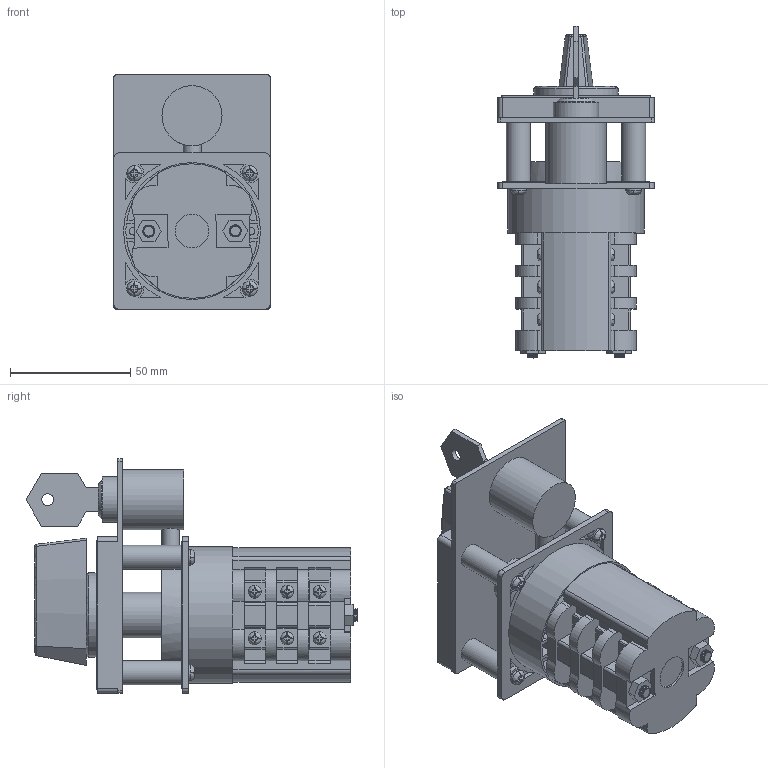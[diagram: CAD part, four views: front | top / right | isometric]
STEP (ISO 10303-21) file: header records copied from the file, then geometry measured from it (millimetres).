
FILE_DESCRIPTION(/* description */ (''),/* implementation_level */ '2;1');
FILE_NAME(/* name */ '4G16,25_S5_3_korpusy.stp',/* time_stamp */ '2021-07-21T11:42:59+02:00',/* author */ (''),/* organization */ (''),/* preprocessor_version */ 'ST-DEVELOPER v18.1',/* originating_system */ 'SIEMENS PLM Software NX 1965',/* authorisation */ '');
FILE_SCHEMA (('AUTOMOTIVE_DESIGN { 1 0 10303 214 3 1 1 1 }'));
Products named in the file (1): 4G16,25_S5_3_korpusy_stp
Bounding box: 65 x 138.1 x 97.5 mm (x, y, z)
Volume: 256194.7 mm3; surface area: 63672.2 mm2
Topology: 2 solids, 13 shells, 1054 faces, 2917 edges, 1921 vertices
Faces by surface type: plane 601, cylinder 303, bspline 119, cone 28, sphere 2, torus 1
Full cylindrical faces by diameter (mm): 3.3 x2, 4 x4, 4.3 x4, 5 x3, 5.4 x13, 6.4 x4, 6.5 x2, 7.2 x4, 7.5 x1, 10 x5, 14 x1, 15.8 x1, 19 x2, 21.2 x1, 25 x1, 35 x1, 57 x1
Entity records: 98362 total; most frequent: CARTESIAN_POINT 72708, ORIENTED_EDGE 5570, DIRECTION 4746, EDGE_CURVE 2785, VERTEX_POINT 1865, AXIS2_PLACEMENT_3D 1707, LINE 1332, VECTOR 1332
